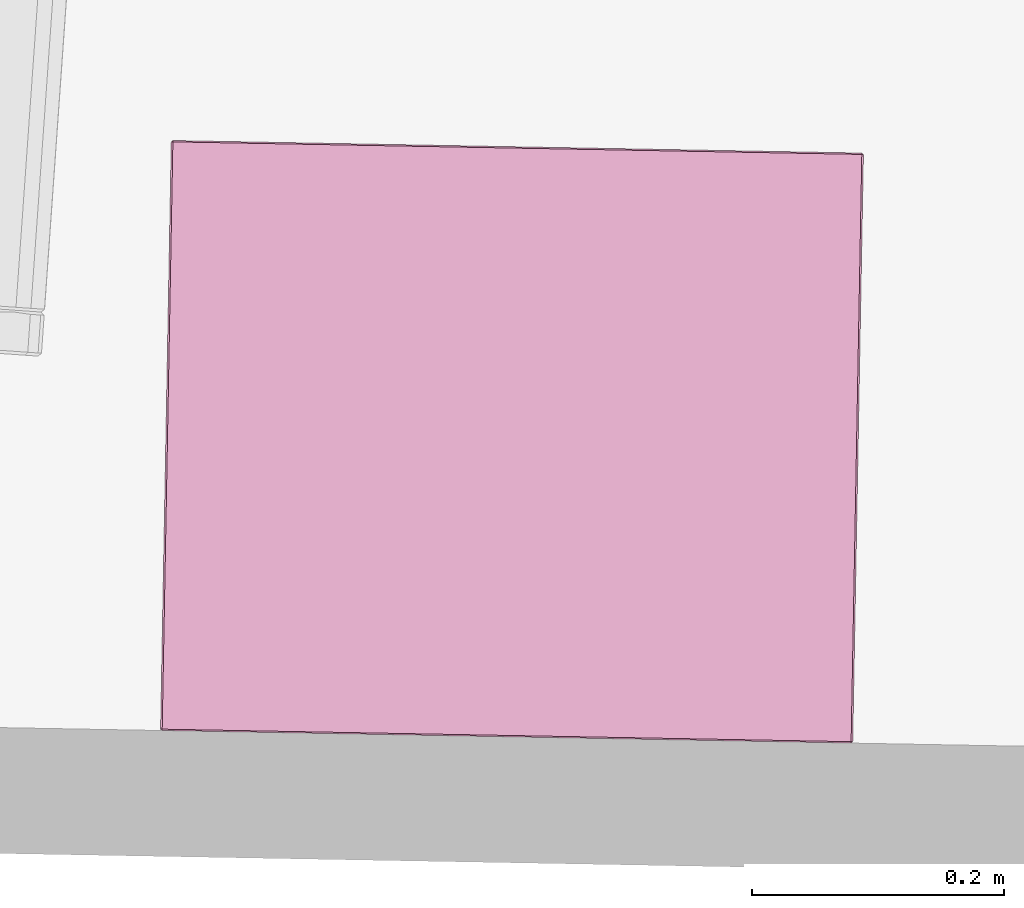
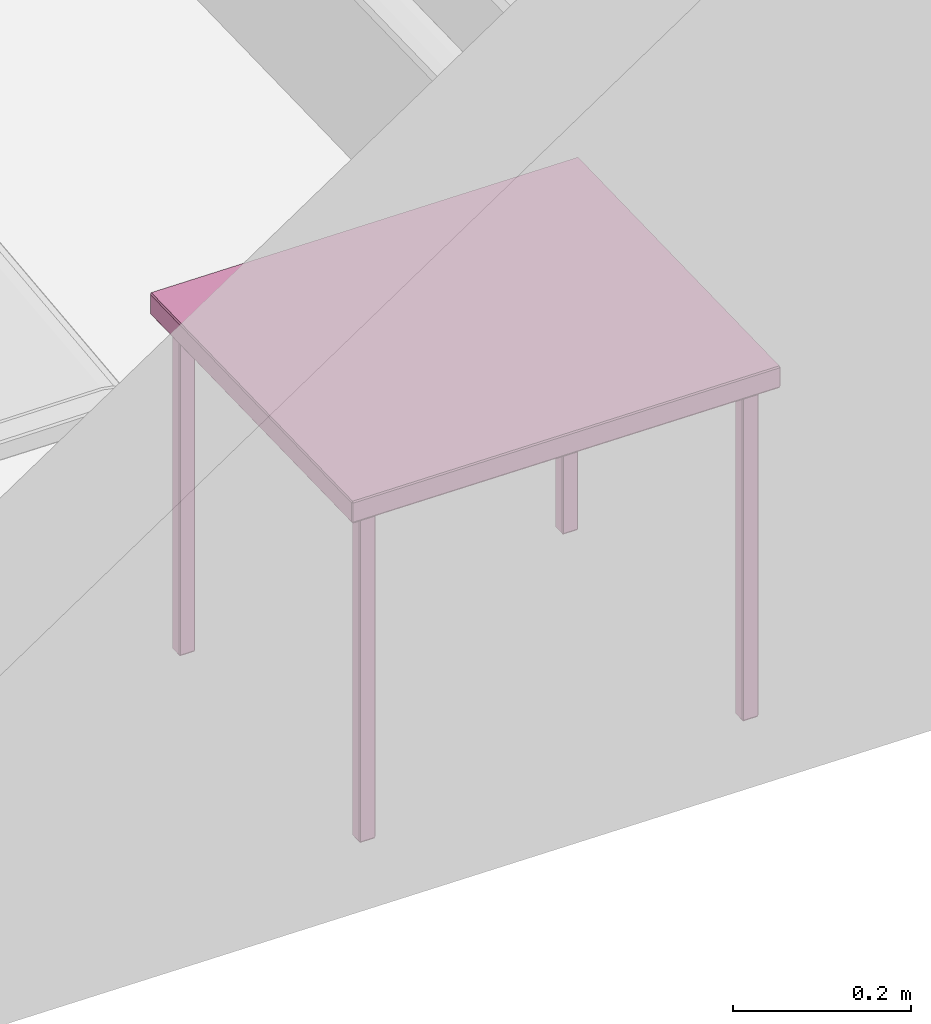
# One storey, part 8 of 9: 1 furnishing.
"""IFC2X3 building model written with IfcOpenShell, lengths in metres."""

from ifc_helpers import new_model, si_unit, frame, origin_with_axes, place, context, project, spatial, faceted_brep, type_object, element, save


model = new_model("IFC2X3")

# Units and contexts
model_context = context("Model", 3, precision=1e-05, world=origin_with_axes())
ifc_project = project(units=[si_unit("AREAUNIT", "SQUARE_METRE"), si_unit("LENGTHUNIT", "METRE")], contexts=[model_context])

# Site, building, storey, space
site_placement = place(None, origin_with_axes())
site = spatial("IfcSite", under=ifc_project, at=site_placement, Name="Site", CompositionType="ELEMENT")
building_placement = place(site_placement, origin_with_axes())
building = spatial("IfcBuilding", under=site, at=building_placement, Name="Building", CompositionType="ELEMENT")
storey_placement = place(building_placement, frame((0.0, 0.0, 5.74363407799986), z_axis=(0.0, 0.0, 1.0), x_axis=(1.0, 0.0, 0.0)))
storey = spatial("IfcBuildingStorey", under=building, at=storey_placement, Name="Story 2", CompositionType="ELEMENT", Elevation=5.7436338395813)
space_placement = place(storey_placement, frame((-2.02082088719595, -4.45995701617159, 0.0), z_axis=(0.0, 0.0, 1.0), x_axis=(1.0, 0.0, 0.0)))
space = spatial("IfcSpace", under=storey, at=space_placement, Name="011", CompositionType="ELEMENT", InteriorOrExteriorSpace="INTERNAL")

# Furnishing
furniture_type = type_object("IfcFurnitureType", Name="a5336161-6508-48ab-806c-2e695186104e")
furnishing_placement = place(space_placement, frame((0.946325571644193, 0.217344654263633, 0.242535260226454), z_axis=(0.0, 0.0, 1.0000000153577), x_axis=(0.0181992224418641, 0.999834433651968, 0.0)))
element("IfcFurnishingElement", 1, at=furnishing_placement, inside=space, type_object=furniture_type, Name="Table", ObjectType="Table", context=model_context, shape_type="Brep", body=[
    faceted_brep([(0.2334, 0.2751, 0.2144), (-0.2334, 0.2751, 0.2144), (0.2334, 0.2751, 0.2404), (-0.2334, 0.2751, 0.2404), (0.2334, 0.2751, 0.2404), (-0.2334, 0.2751, 0.2144), (0.2, -0.2548, 0.2199), (0.2, -0.2367, 0.2199), (0.2, -0.2548, -0.2404), (0.2, -0.2367, -0.2404), (0.2, -0.2548, -0.2404), (0.2, -0.2367, 0.2199), (0.2166, -0.2561, 0.2199), (0.2012, -0.2561, 0.2199), (0.2166, -0.2561, -0.2404), (0.2012, -0.2561, -0.2404), (0.2166, -0.2561, -0.2404), (0.2012, -0.2561, 0.2199), (0.2178, -0.2367, 0.2199), (0.2178, -0.2548, 0.2199), (0.2178, -0.2367, -0.2404), (0.2178, -0.2548, -0.2404), (0.2178, -0.2367, -0.2404), (0.2178, -0.2548, 0.2199), (0.2012, -0.2353, 0.2199), (0.2166, -0.2353, 0.2199), (0.2012, -0.2353, -0.2404), (0.2166, -0.2353, -0.2404), (0.2012, -0.2353, -0.2404), (0.2166, -0.2353, 0.2199), (0.2, 0.2548, 0.2199), (0.2, 0.2548, -0.2404), (0.2, 0.2367, 0.2199), (0.2, 0.2367, -0.2404), (0.2, 0.2367, 0.2199), (0.2, 0.2548, -0.2404), (0.2166, 0.2561, 0.2199), (0.2166, 0.2561, -0.2404), (0.2012, 0.2561, 0.2199), (0.2012, 0.2561, -0.2404), (0.2012, 0.2561, 0.2199), (0.2166, 0.2561, -0.2404), (0.2178, 0.2367, 0.2199), (0.2178, 0.2367, -0.2404), (0.2178, 0.2548, 0.2199), (0.2178, 0.2548, -0.2404), (0.2178, 0.2548, 0.2199), (0.2178, 0.2367, -0.2404), (0.2012, 0.2353, 0.2199), (0.2012, 0.2353, -0.2404), (0.2166, 0.2353, 0.2199), (0.2166, 0.2353, -0.2404), (0.2166, 0.2353, 0.2199), (0.2012, 0.2353, -0.2404), (0.2345, 0.2738, 0.2144), (0.2345, 0.2738, 0.2404), (0.2345, -0.2738, 0.2144), (0.2345, -0.2738, 0.2404), (0.2345, -0.2738, 0.2144), (0.2345, 0.2738, 0.2404), (-0.2345, 0.2738, 0.2404), (-0.2345, 0.2738, 0.2144), (-0.2345, -0.2738, 0.2404), (-0.2345, -0.2738, 0.2144), (-0.2345, -0.2738, 0.2404), (-0.2345, 0.2738, 0.2144), (-0.2, -0.2548, 0.2199), (-0.2, -0.2548, -0.2404), (-0.2, -0.2367, 0.2199), (-0.2, -0.2367, -0.2404), (-0.2, -0.2367, 0.2199), (-0.2, -0.2548, -0.2404), (-0.2166, -0.2561, 0.2199), (-0.2166, -0.2561, -0.2404), (-0.2012, -0.2561, 0.2199), (-0.2012, -0.2561, -0.2404), (-0.2012, -0.2561, 0.2199), (-0.2166, -0.2561, -0.2404), (-0.2178, -0.2367, 0.2199), (-0.2178, -0.2367, -0.2404), (-0.2178, -0.2548, 0.2199), (-0.2178, -0.2548, -0.2404), (-0.2178, -0.2548, 0.2199), (-0.2178, -0.2367, -0.2404), (-0.2012, -0.2353, 0.2199), (-0.2012, -0.2353, -0.2404), (-0.2166, -0.2353, 0.2199), (-0.2166, -0.2353, -0.2404), (-0.2166, -0.2353, 0.2199), (-0.2012, -0.2353, -0.2404), (-0.2, 0.2548, 0.2199), (-0.2, 0.2367, 0.2199), (-0.2, 0.2548, -0.2404), (-0.2, 0.2367, -0.2404), (-0.2, 0.2548, -0.2404), (-0.2, 0.2367, 0.2199), (-0.2166, 0.2561, 0.2199), (-0.2012, 0.2561, 0.2199), (-0.2166, 0.2561, -0.2404), (-0.2012, 0.2561, -0.2404), (-0.2166, 0.2561, -0.2404), (-0.2012, 0.2561, 0.2199), (-0.2178, 0.2367, 0.2199), (-0.2178, 0.2548, 0.2199), (-0.2178, 0.2367, -0.2404), (-0.2178, 0.2548, -0.2404), (-0.2178, 0.2367, -0.2404), (-0.2178, 0.2548, 0.2199), (-0.2012, 0.2353, 0.2199), (-0.2166, 0.2353, 0.2199), (-0.2012, 0.2353, -0.2404), (-0.2166, 0.2353, -0.2404), (-0.2012, 0.2353, -0.2404), (-0.2166, 0.2353, 0.2199), (-0.2334, 0.2738, 0.2425), (-0.2334, -0.2738, 0.2425), (0.2334, 0.2738, 0.2425), (0.2334, -0.2738, 0.2425), (0.2334, 0.2738, 0.2425), (-0.2334, -0.2738, 0.2425), (0.2334, -0.2751, 0.2144), (0.2334, -0.2751, 0.2404), (-0.2334, -0.2751, 0.2144), (-0.2334, -0.2751, 0.2404), (-0.2334, -0.2751, 0.2144), (0.2334, -0.2751, 0.2404), (0.2334, -0.2738, 0.2123), (-0.2334, -0.2738, 0.2123), (0.2334, 0.2738, 0.2123), (-0.2334, 0.2738, 0.2123), (0.2334, 0.2738, 0.2123), (-0.2334, -0.2738, 0.2123), (0.2166, -0.2548, 0.222), (0.2166, -0.2367, 0.222), (0.2012, -0.2548, 0.222), (0.2012, -0.2367, 0.222), (0.2012, -0.2548, 0.222), (0.2166, -0.2367, 0.222), (0.2166, -0.2367, -0.2425), (0.2166, -0.2548, -0.2425), (0.2012, -0.2367, -0.2425), (0.2012, -0.2548, -0.2425), (0.2012, -0.2367, -0.2425), (0.2166, -0.2548, -0.2425), (0.2166, 0.2548, -0.2425), (0.2166, 0.2367, -0.2425), (0.2012, 0.2548, -0.2425), (0.2012, 0.2367, -0.2425), (0.2012, 0.2548, -0.2425), (0.2166, 0.2367, -0.2425), (0.2166, 0.2367, 0.222), (0.2166, 0.2548, 0.222), (0.2012, 0.2367, 0.222), (0.2012, 0.2548, 0.222), (0.2012, 0.2367, 0.222), (0.2166, 0.2548, 0.222), (-0.2166, -0.2548, -0.2425), (-0.2166, -0.2367, -0.2425), (-0.2012, -0.2548, -0.2425), (-0.2012, -0.2367, -0.2425), (-0.2012, -0.2548, -0.2425), (-0.2166, -0.2367, -0.2425), (-0.2166, -0.2367, 0.222), (-0.2166, -0.2548, 0.222), (-0.2012, -0.2367, 0.222), (-0.2012, -0.2548, 0.222), (-0.2012, -0.2367, 0.222), (-0.2166, -0.2548, 0.222), (-0.2166, 0.2548, 0.222), (-0.2166, 0.2367, 0.222), (-0.2012, 0.2548, 0.222), (-0.2012, 0.2367, 0.222), (-0.2012, 0.2548, 0.222), (-0.2166, 0.2367, 0.222), (-0.2166, 0.2367, -0.2425), (-0.2166, 0.2548, -0.2425), (-0.2012, 0.2367, -0.2425), (-0.2012, 0.2548, -0.2425), (-0.2012, 0.2367, -0.2425), (-0.2166, 0.2548, -0.2425), (-0.2334, 0.2738, 0.2425), (-0.2334, 0.2751, 0.2404), (-0.2345, 0.2738, 0.2404), (0.2012, -0.2367, -0.2425), (0.2, -0.2367, -0.2404), (0.2012, -0.2353, -0.2404), (0.2012, -0.2548, -0.2425), (0.2012, -0.2561, -0.2404), (0.2, -0.2548, -0.2404), (0.2166, -0.2548, -0.2425), (0.2178, -0.2548, -0.2404), (0.2166, -0.2561, -0.2404), (0.2166, -0.2367, -0.2425), (0.2166, -0.2353, -0.2404), (0.2178, -0.2367, -0.2404), (0.2012, -0.2367, 0.222), (0.2012, -0.2353, 0.2199), (0.2, -0.2367, 0.2199), (0.2012, 0.2353, -0.2404), (0.2, 0.2367, -0.2404), (0.2012, 0.2367, -0.2425), (0.2012, 0.2548, 0.222), (0.2012, 0.2561, 0.2199), (0.2, 0.2548, 0.2199), (0.2166, 0.2548, 0.222), (0.2178, 0.2548, 0.2199), (0.2166, 0.2561, 0.2199), (0.2166, 0.2367, 0.222), (0.2166, 0.2353, 0.2199), (0.2178, 0.2367, 0.2199), (0.2334, -0.2751, 0.2404), (0.2345, -0.2738, 0.2404), (0.2334, -0.2738, 0.2425), (0.2334, 0.2738, 0.2425), (0.2345, 0.2738, 0.2404), (0.2334, 0.2751, 0.2404), (-0.2334, -0.2751, 0.2144), (-0.2345, -0.2738, 0.2144), (-0.2334, -0.2738, 0.2123), (-0.2334, 0.2738, 0.2123), (-0.2345, 0.2738, 0.2144), (-0.2334, 0.2751, 0.2144), (-0.2012, -0.2353, -0.2404), (-0.2, -0.2367, -0.2404), (-0.2012, -0.2367, -0.2425), (-0.2012, -0.2548, 0.222), (-0.2012, -0.2561, 0.2199), (-0.2, -0.2548, 0.2199), (-0.2166, -0.2548, 0.222), (-0.2178, -0.2548, 0.2199), (-0.2166, -0.2561, 0.2199), (-0.2166, -0.2367, 0.222), (-0.2166, -0.2353, 0.2199), (-0.2178, -0.2367, 0.2199), (-0.2012, 0.2367, -0.2425), (-0.2, 0.2367, -0.2404), (-0.2012, 0.2353, -0.2404), (-0.2012, 0.2548, -0.2425), (-0.2012, 0.2561, -0.2404), (-0.2, 0.2548, -0.2404), (-0.2166, 0.2548, -0.2425), (-0.2178, 0.2548, -0.2404), (-0.2166, 0.2561, -0.2404), (-0.2166, 0.2367, -0.2425), (-0.2166, 0.2353, -0.2404), (-0.2178, 0.2367, -0.2404), (-0.2012, 0.2367, 0.222), (-0.2012, 0.2353, 0.2199), (-0.2, 0.2367, 0.2199), (-0.2334, -0.2751, 0.2404), (-0.2334, -0.2738, 0.2425), (-0.2345, -0.2738, 0.2404), (0.2334, -0.2751, 0.2144), (0.2334, -0.2738, 0.2123), (0.2345, -0.2738, 0.2144), (0.2345, 0.2738, 0.2144), (0.2334, 0.2738, 0.2123), (0.2334, 0.2751, 0.2144), (0.2166, -0.2353, 0.2199), (0.2166, -0.2367, 0.222), (0.2178, -0.2367, 0.2199), (0.2178, -0.2548, 0.2199), (0.2166, -0.2548, 0.222), (0.2166, -0.2561, 0.2199), (0.2012, -0.2561, 0.2199), (0.2012, -0.2548, 0.222), (0.2, -0.2548, 0.2199), (0.2166, 0.2353, -0.2404), (0.2166, 0.2367, -0.2425), (0.2178, 0.2367, -0.2404), (0.2178, 0.2548, -0.2404), (0.2166, 0.2548, -0.2425), (0.2166, 0.2561, -0.2404), (0.2012, 0.2561, -0.2404), (0.2012, 0.2548, -0.2425), (0.2, 0.2548, -0.2404), (0.2012, 0.2353, 0.2199), (0.2012, 0.2367, 0.222), (0.2, 0.2367, 0.2199), (-0.2166, -0.2353, -0.2404), (-0.2166, -0.2367, -0.2425), (-0.2178, -0.2367, -0.2404), (-0.2178, -0.2548, -0.2404), (-0.2166, -0.2548, -0.2425), (-0.2166, -0.2561, -0.2404), (-0.2012, -0.2561, -0.2404), (-0.2012, -0.2548, -0.2425), (-0.2, -0.2548, -0.2404), (-0.2012, -0.2353, 0.2199), (-0.2012, -0.2367, 0.222), (-0.2, -0.2367, 0.2199), (-0.2166, 0.2353, 0.2199), (-0.2166, 0.2367, 0.222), (-0.2178, 0.2367, 0.2199), (-0.2178, 0.2548, 0.2199), (-0.2166, 0.2548, 0.222), (-0.2166, 0.2561, 0.2199), (-0.2012, 0.2561, 0.2199), (-0.2012, 0.2548, 0.222), (-0.2, 0.2548, 0.2199), (-0.2334, 0.2751, 0.2404), (-0.2334, 0.2751, 0.2144), (-0.2345, 0.2738, 0.2404), (-0.2345, 0.2738, 0.2144), (-0.2345, 0.2738, 0.2404), (-0.2334, 0.2751, 0.2144), (-0.2334, 0.2751, 0.2144), (0.2334, 0.2751, 0.2144), (-0.2334, 0.2738, 0.2123), (0.2334, 0.2738, 0.2123), (-0.2334, 0.2738, 0.2123), (0.2334, 0.2751, 0.2144), (0.2334, 0.2751, 0.2144), (0.2334, 0.2751, 0.2404), (0.2345, 0.2738, 0.2144), (0.2345, 0.2738, 0.2404), (0.2345, 0.2738, 0.2144), (0.2334, 0.2751, 0.2404), (0.2334, 0.2751, 0.2404), (-0.2334, 0.2751, 0.2404), (0.2334, 0.2738, 0.2425), (-0.2334, 0.2738, 0.2425), (0.2334, 0.2738, 0.2425), (-0.2334, 0.2751, 0.2404), (0.2, -0.2367, -0.2404), (0.2, -0.2367, 0.2199), (0.2012, -0.2353, -0.2404), (0.2012, -0.2353, 0.2199), (0.2012, -0.2353, -0.2404), (0.2, -0.2367, 0.2199), (0.2, -0.2367, 0.2199), (0.2, -0.2548, 0.2199), (0.2012, -0.2367, 0.222), (0.2012, -0.2548, 0.222), (0.2012, -0.2367, 0.222), (0.2, -0.2548, 0.2199), (0.2, -0.2548, 0.2199), (0.2, -0.2548, -0.2404), (0.2012, -0.2561, 0.2199), (0.2012, -0.2561, -0.2404), (0.2012, -0.2561, 0.2199), (0.2, -0.2548, -0.2404), (0.2, -0.2548, -0.2404), (0.2, -0.2367, -0.2404), (0.2012, -0.2548, -0.2425), (0.2012, -0.2367, -0.2425), (0.2012, -0.2548, -0.2425), (0.2, -0.2367, -0.2404), (0.2012, -0.2561, 0.2199), (0.2166, -0.2561, 0.2199), (0.2012, -0.2548, 0.222), (0.2166, -0.2548, 0.222), (0.2012, -0.2548, 0.222), (0.2166, -0.2561, 0.2199), (0.2166, -0.2561, 0.2199), (0.2166, -0.2561, -0.2404), (0.2178, -0.2548, 0.2199), (0.2178, -0.2548, -0.2404), (0.2178, -0.2548, 0.2199), (0.2166, -0.2561, -0.2404), (0.2166, -0.2561, -0.2404), (0.2012, -0.2561, -0.2404), (0.2166, -0.2548, -0.2425), (0.2012, -0.2548, -0.2425), (0.2166, -0.2548, -0.2425), (0.2012, -0.2561, -0.2404), (0.2178, -0.2548, 0.2199), (0.2178, -0.2367, 0.2199), (0.2166, -0.2548, 0.222), (0.2166, -0.2367, 0.222), (0.2166, -0.2548, 0.222), (0.2178, -0.2367, 0.2199), (0.2178, -0.2367, 0.2199), (0.2178, -0.2367, -0.2404), (0.2166, -0.2353, 0.2199), (0.2166, -0.2353, -0.2404), (0.2166, -0.2353, 0.2199), (0.2178, -0.2367, -0.2404), (0.2178, -0.2367, -0.2404), (0.2178, -0.2548, -0.2404), (0.2166, -0.2367, -0.2425), (0.2166, -0.2548, -0.2425), (0.2166, -0.2367, -0.2425), (0.2178, -0.2548, -0.2404), (0.2166, -0.2353, 0.2199), (0.2012, -0.2353, 0.2199), (0.2166, -0.2367, 0.222), (0.2012, -0.2367, 0.222), (0.2166, -0.2367, 0.222), (0.2012, -0.2353, 0.2199), (0.2012, -0.2353, -0.2404), (0.2166, -0.2353, -0.2404), (0.2012, -0.2367, -0.2425), (0.2166, -0.2367, -0.2425), (0.2012, -0.2367, -0.2425), (0.2166, -0.2353, -0.2404), (0.2, 0.2367, -0.2404), (0.2, 0.2548, -0.2404), (0.2012, 0.2367, -0.2425), (0.2012, 0.2548, -0.2425), (0.2012, 0.2367, -0.2425), (0.2, 0.2548, -0.2404), (0.2, 0.2548, -0.2404), (0.2, 0.2548, 0.2199), (0.2012, 0.2561, -0.2404), (0.2012, 0.2561, 0.2199), (0.2012, 0.2561, -0.2404), (0.2, 0.2548, 0.2199), (0.2, 0.2548, 0.2199), (0.2, 0.2367, 0.2199), (0.2012, 0.2548, 0.222), (0.2012, 0.2367, 0.222), (0.2012, 0.2548, 0.222), (0.2, 0.2367, 0.2199), (0.2, 0.2367, 0.2199), (0.2, 0.2367, -0.2404), (0.2012, 0.2353, 0.2199), (0.2012, 0.2353, -0.2404), (0.2012, 0.2353, 0.2199), (0.2, 0.2367, -0.2404), (0.2012, 0.2561, -0.2404), (0.2166, 0.2561, -0.2404), (0.2012, 0.2548, -0.2425), (0.2166, 0.2548, -0.2425), (0.2012, 0.2548, -0.2425), (0.2166, 0.2561, -0.2404), (0.2166, 0.2561, -0.2404), (0.2166, 0.2561, 0.2199), (0.2178, 0.2548, -0.2404), (0.2178, 0.2548, 0.2199), (0.2178, 0.2548, -0.2404), (0.2166, 0.2561, 0.2199), (0.2166, 0.2561, 0.2199), (0.2012, 0.2561, 0.2199), (0.2166, 0.2548, 0.222), (0.2012, 0.2548, 0.222), (0.2166, 0.2548, 0.222), (0.2012, 0.2561, 0.2199), (0.2178, 0.2548, -0.2404), (0.2178, 0.2367, -0.2404), (0.2166, 0.2548, -0.2425), (0.2166, 0.2367, -0.2425), (0.2166, 0.2548, -0.2425), (0.2178, 0.2367, -0.2404), (0.2178, 0.2367, -0.2404), (0.2178, 0.2367, 0.2199), (0.2166, 0.2353, -0.2404), (0.2166, 0.2353, 0.2199), (0.2166, 0.2353, -0.2404), (0.2178, 0.2367, 0.2199), (0.2178, 0.2367, 0.2199), (0.2178, 0.2548, 0.2199), (0.2166, 0.2367, 0.222), (0.2166, 0.2548, 0.222), (0.2166, 0.2367, 0.222), (0.2178, 0.2548, 0.2199), (0.2166, 0.2353, -0.2404), (0.2012, 0.2353, -0.2404), (0.2166, 0.2367, -0.2425), (0.2012, 0.2367, -0.2425), (0.2166, 0.2367, -0.2425), (0.2012, 0.2353, -0.2404), (0.2012, 0.2353, 0.2199), (0.2166, 0.2353, 0.2199), (0.2012, 0.2367, 0.222), (0.2166, 0.2367, 0.222), (0.2012, 0.2367, 0.222), (0.2166, 0.2353, 0.2199), (0.2345, -0.2738, 0.2404), (0.2345, 0.2738, 0.2404), (0.2334, -0.2738, 0.2425), (0.2334, 0.2738, 0.2425), (0.2334, -0.2738, 0.2425), (0.2345, 0.2738, 0.2404), (0.2345, 0.2738, 0.2144), (0.2345, -0.2738, 0.2144), (0.2334, 0.2738, 0.2123), (0.2334, -0.2738, 0.2123), (0.2334, 0.2738, 0.2123), (0.2345, -0.2738, 0.2144), (0.2345, -0.2738, 0.2144), (0.2345, -0.2738, 0.2404), (0.2334, -0.2751, 0.2144), (0.2334, -0.2751, 0.2404), (0.2334, -0.2751, 0.2144), (0.2345, -0.2738, 0.2404), (-0.2345, -0.2738, 0.2144), (-0.2345, 0.2738, 0.2144), (-0.2334, -0.2738, 0.2123), (-0.2334, 0.2738, 0.2123), (-0.2334, -0.2738, 0.2123), (-0.2345, 0.2738, 0.2144), (-0.2345, 0.2738, 0.2404), (-0.2345, -0.2738, 0.2404), (-0.2334, 0.2738, 0.2425), (-0.2334, -0.2738, 0.2425), (-0.2334, 0.2738, 0.2425), (-0.2345, -0.2738, 0.2404), (-0.2345, -0.2738, 0.2404), (-0.2345, -0.2738, 0.2144), (-0.2334, -0.2751, 0.2404), (-0.2334, -0.2751, 0.2144), (-0.2334, -0.2751, 0.2404), (-0.2345, -0.2738, 0.2144), (-0.2, -0.2367, -0.2404), (-0.2, -0.2548, -0.2404), (-0.2012, -0.2367, -0.2425), (-0.2012, -0.2548, -0.2425), (-0.2012, -0.2367, -0.2425), (-0.2, -0.2548, -0.2404), (-0.2, -0.2548, -0.2404), (-0.2, -0.2548, 0.2199), (-0.2012, -0.2561, -0.2404), (-0.2012, -0.2561, 0.2199), (-0.2012, -0.2561, -0.2404), (-0.2, -0.2548, 0.2199), (-0.2, -0.2548, 0.2199), (-0.2, -0.2367, 0.2199), (-0.2012, -0.2548, 0.222), (-0.2012, -0.2367, 0.222), (-0.2012, -0.2548, 0.222), (-0.2, -0.2367, 0.2199), (-0.2, -0.2367, 0.2199), (-0.2, -0.2367, -0.2404), (-0.2012, -0.2353, 0.2199), (-0.2012, -0.2353, -0.2404), (-0.2012, -0.2353, 0.2199), (-0.2, -0.2367, -0.2404), (-0.2012, -0.2561, -0.2404), (-0.2166, -0.2561, -0.2404), (-0.2012, -0.2548, -0.2425), (-0.2166, -0.2548, -0.2425), (-0.2012, -0.2548, -0.2425), (-0.2166, -0.2561, -0.2404), (-0.2166, -0.2561, -0.2404), (-0.2166, -0.2561, 0.2199), (-0.2178, -0.2548, -0.2404), (-0.2178, -0.2548, 0.2199), (-0.2178, -0.2548, -0.2404), (-0.2166, -0.2561, 0.2199), (-0.2166, -0.2561, 0.2199), (-0.2012, -0.2561, 0.2199), (-0.2166, -0.2548, 0.222), (-0.2012, -0.2548, 0.222), (-0.2166, -0.2548, 0.222), (-0.2012, -0.2561, 0.2199), (-0.2178, -0.2548, -0.2404), (-0.2178, -0.2367, -0.2404), (-0.2166, -0.2548, -0.2425), (-0.2166, -0.2367, -0.2425), (-0.2166, -0.2548, -0.2425), (-0.2178, -0.2367, -0.2404), (-0.2178, -0.2367, -0.2404), (-0.2178, -0.2367, 0.2199), (-0.2166, -0.2353, -0.2404), (-0.2166, -0.2353, 0.2199), (-0.2166, -0.2353, -0.2404), (-0.2178, -0.2367, 0.2199), (-0.2178, -0.2367, 0.2199), (-0.2178, -0.2548, 0.2199), (-0.2166, -0.2367, 0.222), (-0.2166, -0.2548, 0.222), (-0.2166, -0.2367, 0.222), (-0.2178, -0.2548, 0.2199), (-0.2166, -0.2353, -0.2404), (-0.2012, -0.2353, -0.2404), (-0.2166, -0.2367, -0.2425), (-0.2012, -0.2367, -0.2425), (-0.2166, -0.2367, -0.2425), (-0.2012, -0.2353, -0.2404), (-0.2012, -0.2353, 0.2199), (-0.2166, -0.2353, 0.2199), (-0.2012, -0.2367, 0.222), (-0.2166, -0.2367, 0.222), (-0.2012, -0.2367, 0.222), (-0.2166, -0.2353, 0.2199), (-0.2, 0.2367, -0.2404), (-0.2, 0.2367, 0.2199), (-0.2012, 0.2353, -0.2404), (-0.2012, 0.2353, 0.2199), (-0.2012, 0.2353, -0.2404), (-0.2, 0.2367, 0.2199), (-0.2, 0.2367, 0.2199), (-0.2, 0.2548, 0.2199), (-0.2012, 0.2367, 0.222), (-0.2012, 0.2548, 0.222), (-0.2012, 0.2367, 0.222), (-0.2, 0.2548, 0.2199), (-0.2, 0.2548, 0.2199), (-0.2, 0.2548, -0.2404), (-0.2012, 0.2561, 0.2199), (-0.2012, 0.2561, -0.2404), (-0.2012, 0.2561, 0.2199), (-0.2, 0.2548, -0.2404), (-0.2, 0.2548, -0.2404), (-0.2, 0.2367, -0.2404), (-0.2012, 0.2548, -0.2425), (-0.2012, 0.2367, -0.2425), (-0.2012, 0.2548, -0.2425), (-0.2, 0.2367, -0.2404), (-0.2012, 0.2561, 0.2199), (-0.2166, 0.2561, 0.2199), (-0.2012, 0.2548, 0.222), (-0.2166, 0.2548, 0.222), (-0.2012, 0.2548, 0.222), (-0.2166, 0.2561, 0.2199), (-0.2166, 0.2561, 0.2199), (-0.2166, 0.2561, -0.2404), (-0.2178, 0.2548, 0.2199), (-0.2178, 0.2548, -0.2404), (-0.2178, 0.2548, 0.2199), (-0.2166, 0.2561, -0.2404), (-0.2166, 0.2561, -0.2404), (-0.2012, 0.2561, -0.2404), (-0.2166, 0.2548, -0.2425), (-0.2012, 0.2548, -0.2425), (-0.2166, 0.2548, -0.2425), (-0.2012, 0.2561, -0.2404), (-0.2178, 0.2548, 0.2199), (-0.2178, 0.2367, 0.2199), (-0.2166, 0.2548, 0.222), (-0.2166, 0.2367, 0.222), (-0.2166, 0.2548, 0.222), (-0.2178, 0.2367, 0.2199), (-0.2178, 0.2367, 0.2199), (-0.2178, 0.2367, -0.2404), (-0.2166, 0.2353, 0.2199), (-0.2166, 0.2353, -0.2404), (-0.2166, 0.2353, 0.2199), (-0.2178, 0.2367, -0.2404), (-0.2178, 0.2367, -0.2404), (-0.2178, 0.2548, -0.2404), (-0.2166, 0.2367, -0.2425), (-0.2166, 0.2548, -0.2425), (-0.2166, 0.2367, -0.2425), (-0.2178, 0.2548, -0.2404), (-0.2166, 0.2353, 0.2199), (-0.2012, 0.2353, 0.2199), (-0.2166, 0.2367, 0.222), (-0.2012, 0.2367, 0.222), (-0.2166, 0.2367, 0.222), (-0.2012, 0.2353, 0.2199), (-0.2012, 0.2353, -0.2404), (-0.2166, 0.2353, -0.2404), (-0.2012, 0.2367, -0.2425), (-0.2166, 0.2367, -0.2425), (-0.2012, 0.2367, -0.2425), (-0.2166, 0.2353, -0.2404), (0.2334, -0.2738, 0.2425), (-0.2334, -0.2738, 0.2425), (0.2334, -0.2751, 0.2404), (-0.2334, -0.2751, 0.2404), (0.2334, -0.2751, 0.2404), (-0.2334, -0.2738, 0.2425), (0.2334, -0.2751, 0.2144), (-0.2334, -0.2751, 0.2144), (0.2334, -0.2738, 0.2123), (-0.2334, -0.2738, 0.2123), (0.2334, -0.2738, 0.2123), (-0.2334, -0.2751, 0.2144)], [[[0, 1, 2]], [[3, 4, 5]], [[6, 7, 8]], [[9, 10, 11]], [[12, 13, 14]], [[15, 16, 17]], [[18, 19, 20]], [[21, 22, 23]], [[24, 25, 26]], [[27, 28, 29]], [[30, 31, 32]], [[33, 34, 35]], [[36, 37, 38]], [[39, 40, 41]], [[42, 43, 44]], [[45, 46, 47]], [[48, 49, 50]], [[51, 52, 53]], [[54, 55, 56]], [[57, 58, 59]], [[60, 61, 62]], [[63, 64, 65]], [[66, 67, 68]], [[69, 70, 71]], [[72, 73, 74]], [[75, 76, 77]], [[78, 79, 80]], [[81, 82, 83]], [[84, 85, 86]], [[87, 88, 89]], [[90, 91, 92]], [[93, 94, 95]], [[96, 97, 98]], [[99, 100, 101]], [[102, 103, 104]], [[105, 106, 107]], [[108, 109, 110]], [[111, 112, 113]], [[114, 115, 116]], [[117, 118, 119]], [[120, 121, 122]], [[123, 124, 125]], [[126, 127, 128]], [[129, 130, 131]], [[132, 133, 134]], [[135, 136, 137]], [[138, 139, 140]], [[141, 142, 143]], [[144, 145, 146]], [[147, 148, 149]], [[150, 151, 152]], [[153, 154, 155]], [[156, 157, 158]], [[159, 160, 161]], [[162, 163, 164]], [[165, 166, 167]], [[168, 169, 170]], [[171, 172, 173]], [[174, 175, 176]], [[177, 178, 179]], [[180, 181, 182]], [[183, 184, 185]], [[186, 187, 188]], [[189, 190, 191]], [[192, 193, 194]], [[195, 196, 197]], [[198, 199, 200]], [[201, 202, 203]], [[204, 205, 206]], [[207, 208, 209]], [[210, 211, 212]], [[213, 214, 215]], [[216, 217, 218]], [[219, 220, 221]], [[222, 223, 224]], [[225, 226, 227]], [[228, 229, 230]], [[231, 232, 233]], [[234, 235, 236]], [[237, 238, 239]], [[240, 241, 242]], [[243, 244, 245]], [[246, 247, 248]], [[249, 250, 251]], [[252, 253, 254]], [[255, 256, 257]], [[258, 259, 260]], [[261, 262, 263]], [[264, 265, 266]], [[267, 268, 269]], [[270, 271, 272]], [[273, 274, 275]], [[276, 277, 278]], [[279, 280, 281]], [[282, 283, 284]], [[285, 286, 287]], [[288, 289, 290]], [[291, 292, 293]], [[294, 295, 296]], [[297, 298, 299]], [[300, 301, 302]], [[303, 304, 305]], [[306, 307, 308]], [[309, 310, 311]], [[312, 313, 314]], [[315, 316, 317]], [[318, 319, 320]], [[321, 322, 323]], [[324, 325, 326]], [[327, 328, 329]], [[330, 331, 332]], [[333, 334, 335]], [[336, 337, 338]], [[339, 340, 341]], [[342, 343, 344]], [[345, 346, 347]], [[348, 349, 350]], [[351, 352, 353]], [[354, 355, 356]], [[357, 358, 359]], [[360, 361, 362]], [[363, 364, 365]], [[366, 367, 368]], [[369, 370, 371]], [[372, 373, 374]], [[375, 376, 377]], [[378, 379, 380]], [[381, 382, 383]], [[384, 385, 386]], [[387, 388, 389]], [[390, 391, 392]], [[393, 394, 395]], [[396, 397, 398]], [[399, 400, 401]], [[402, 403, 404]], [[405, 406, 407]], [[408, 409, 410]], [[411, 412, 413]], [[414, 415, 416]], [[417, 418, 419]], [[420, 421, 422]], [[423, 424, 425]], [[426, 427, 428]], [[429, 430, 431]], [[432, 433, 434]], [[435, 436, 437]], [[438, 439, 440]], [[441, 442, 443]], [[444, 445, 446]], [[447, 448, 449]], [[450, 451, 452]], [[453, 454, 455]], [[456, 457, 458]], [[459, 460, 461]], [[462, 463, 464]], [[465, 466, 467]], [[468, 469, 470]], [[471, 472, 473]], [[474, 475, 476]], [[477, 478, 479]], [[480, 481, 482]], [[483, 484, 485]], [[486, 487, 488]], [[489, 490, 491]], [[492, 493, 494]], [[495, 496, 497]], [[498, 499, 500]], [[501, 502, 503]], [[504, 505, 506]], [[507, 508, 509]], [[510, 511, 512]], [[513, 514, 515]], [[516, 517, 518]], [[519, 520, 521]], [[522, 523, 524]], [[525, 526, 527]], [[528, 529, 530]], [[531, 532, 533]], [[534, 535, 536]], [[537, 538, 539]], [[540, 541, 542]], [[543, 544, 545]], [[546, 547, 548]], [[549, 550, 551]], [[552, 553, 554]], [[555, 556, 557]], [[558, 559, 560]], [[561, 562, 563]], [[564, 565, 566]], [[567, 568, 569]], [[570, 571, 572]], [[573, 574, 575]], [[576, 577, 578]], [[579, 580, 581]], [[582, 583, 584]], [[585, 586, 587]], [[588, 589, 590]], [[591, 592, 593]], [[594, 595, 596]], [[597, 598, 599]], [[600, 601, 602]], [[603, 604, 605]], [[606, 607, 608]], [[609, 610, 611]], [[612, 613, 614]], [[615, 616, 617]], [[618, 619, 620]], [[621, 622, 623]], [[624, 625, 626]], [[627, 628, 629]], [[630, 631, 632]], [[633, 634, 635]], [[636, 637, 638]], [[639, 640, 641]], [[642, 643, 644]], [[645, 646, 647]], [[648, 649, 650]], [[651, 652, 653]], [[654, 655, 656]], [[657, 658, 659]]]),
])

save(model, "model.ifc")
